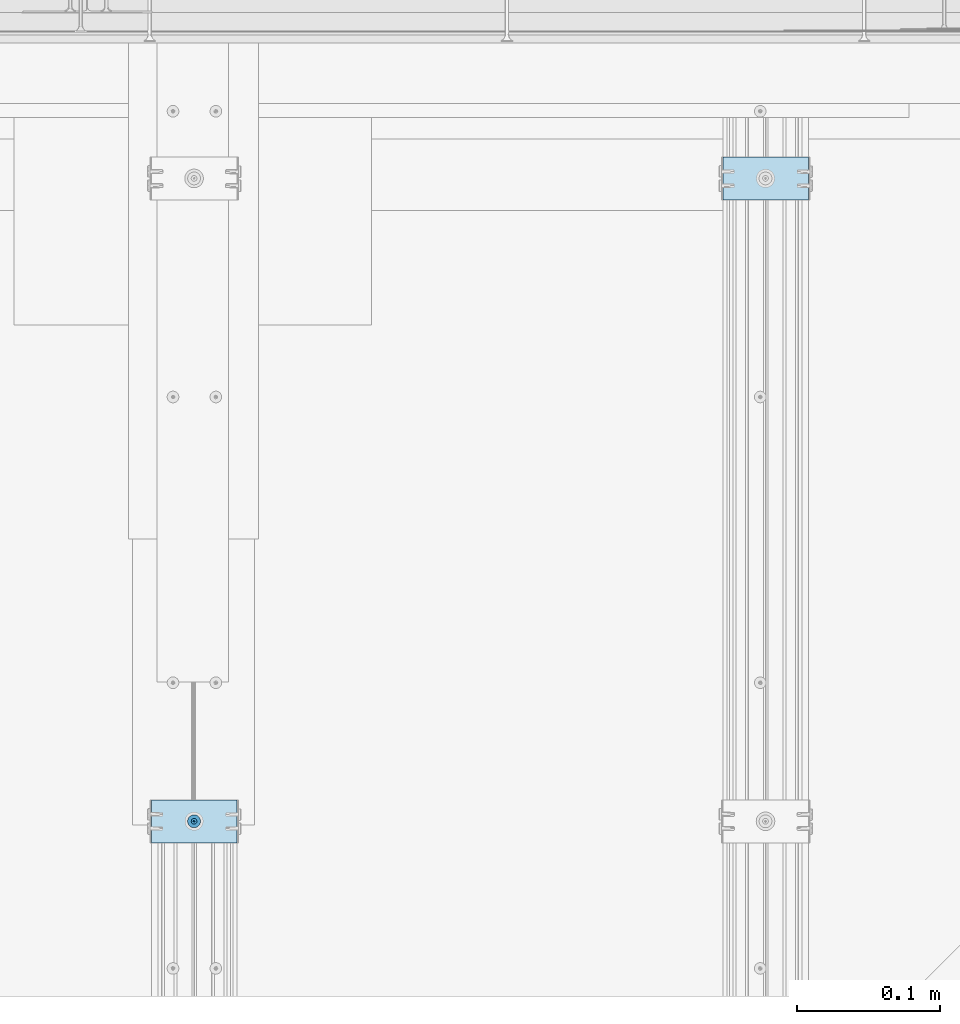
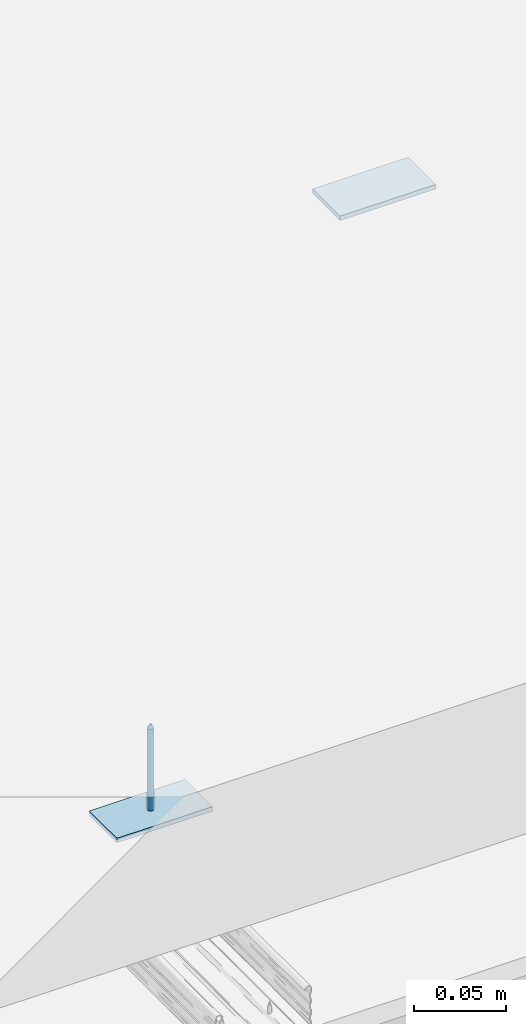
# One storey, part 10 of 62: 3 slabs.
"""IFC2X3 building model written with IfcOpenShell, lengths in millimetres."""

from ifc_helpers import new_model, entity, si_unit, converted_unit, direction, frame, origin, origin_with_axes, place, context, project, spatial, faceted_brep, element, save


model = new_model("IFC2X3")

# Units and contexts
model_context = context("Model", 3, precision=1e-05, world=origin(), true_north=direction((0.0, 1.0, 0.0)))
ifc_project = project(units=[si_unit("LENGTHUNIT", "METRE", prefix="MILLI"), si_unit("AREAUNIT", "SQUARE_METRE"), si_unit("VOLUMEUNIT", "CUBIC_METRE"), converted_unit("PLANEANGLEUNIT", "DEGREE", entity("IfcPlaneAngleMeasure", 0.01745), si_unit("PLANEANGLEUNIT", "RADIAN"), dimensions=[0, 0, 0, 0, 0, 0, 0]), si_unit("SOLIDANGLEUNIT", "STERADIAN"), si_unit("MASSUNIT", "GRAM"), si_unit("TIMEUNIT", "SECOND"), si_unit("THERMODYNAMICTEMPERATUREUNIT", "DEGREE_CELSIUS"), si_unit("LUMINOUSINTENSITYUNIT", "LUMEN")], contexts=[model_context])

# Site, building, storey
site_placement = place(None, origin_with_axes())
site = spatial("IfcSite", under=ifc_project, at=site_placement, Name="Default Site", CompositionType="ELEMENT")
building_placement = place(site_placement, origin_with_axes())
building = spatial("IfcBuilding", under=site, at=building_placement, Name="Default Building", CompositionType="ELEMENT")
storey_placement = place(building_placement, origin_with_axes())
storey = spatial("IfcBuildingStorey", under=building, at=storey_placement, Name="Default Building Storey", CompositionType="ELEMENT", Elevation=0.0)

# Slabs
slab_1_placement = place(storey_placement, frame((2733.040618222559, 1827.603855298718, 1388.424461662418), z_axis=(0.0, -1.0, -6.86006806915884e-13), x_axis=(1.0, 0.0, 0.0)))
element("IfcSlab", 1, at=slab_1_placement, inside=storey, Name="Taśma uszczelniająca piankowa RIGIPS szer.30mm", context=model_context, shape_type="Brep", body=[
    faceted_brep([(59.99999999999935, 0.0, 4.511946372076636e-12), (0.0, 0.0, 0.0), (1.082867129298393e-12, -2.237925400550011e-11, -30.00000000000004), (60.00000000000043, -2.237925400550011e-11, -29.99999999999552), (0.0, 3.00000000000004, 0.0), (1.082867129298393e-12, 2.999999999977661, -30.00000000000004), (60.00000000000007, 3.00000000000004, 0.0), (60.00000000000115, 2.999999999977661, -30.00000000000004)], [[[0, 1, 2, 3]], [[1, 4, 5, 2]], [[4, 6, 7, 5]], [[6, 0, 3, 7]], [[7, 3, 2, 5]], [[0, 6, 4, 1]]]),
])
slab_2_placement = place(storey_placement, frame((5816.179814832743, -41.10778690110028, 1384.974461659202), z_axis=(-6.858158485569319e-13, 6.095830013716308e-13, -1.0), x_axis=(-1.647602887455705e-11, -1.0, -6.095830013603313e-13)))
element("IfcSlab", 2, at=slab_2_placement, inside=storey, Name="Stalowe elementy mocujące", context=model_context, shape_type="Brep", body=[
    faceted_brep([(-1438.31414949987, 3453.283223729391, -0.4642567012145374), (-1435.814149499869, 3453.283223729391, -3.464256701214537), (-1435.78952618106, 3452.97035479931, -3.464256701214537), (-1438.258747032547, 3452.57926863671, -0.4642567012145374), (-1435.71626253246, 3452.665189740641, -3.464256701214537), (-1438.093903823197, 3451.892647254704, -0.4642567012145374), (-1435.596162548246, 3452.375242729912, -3.464256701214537), (-1437.823678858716, 3451.240266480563, -0.4642567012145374), (-1435.432183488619, 3452.107653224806, -3.464256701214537), (-1437.454725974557, 3450.638190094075, -0.4642567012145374), (-1435.228363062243, 3451.869010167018, -3.464256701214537), (-1436.996130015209, 3450.101243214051, -0.4642567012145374), (-1434.989720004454, 3451.665189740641, -3.464256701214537), (-1436.459183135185, 3449.642647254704, -0.4642567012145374), (-1434.722130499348, 3451.501210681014, -3.464256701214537), (-1435.857106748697, 3449.273694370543, -0.4642567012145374), (-1434.432183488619, 3451.381110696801, -3.464256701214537), (-1435.204725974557, 3449.003469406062, -0.4642567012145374), (-1434.12701842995, 3451.307847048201, -3.464256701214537), (-1434.51810459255, 3448.838626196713, -0.4642567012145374), (-1433.814149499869, 3451.283223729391, -3.464256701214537), (-1433.814149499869, 3448.783223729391, -0.4642567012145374), (-1433.501280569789, 3451.307847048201, -3.464256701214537), (-1433.110194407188, 3448.838626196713, -0.4642567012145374), (-1433.19611551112, 3451.381110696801, -3.464256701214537), (-1432.423573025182, 3449.003469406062, -0.4642567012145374), (-1432.906168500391, 3451.501210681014, -3.464256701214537), (-1431.771192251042, 3449.273694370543, -0.4642567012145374), (-1432.638578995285, 3451.665189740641, -3.464256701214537), (-1431.169115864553, 3449.642647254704, -0.4642567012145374), (-1432.399935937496, 3451.869010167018, -3.464256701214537), (-1430.63216898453, 3450.101243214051, -0.4642567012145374), (-1432.196115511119, 3452.107653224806, -3.464256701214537), (-1430.173573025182, 3450.638190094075, -0.4642567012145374), (-1432.032136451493, 3452.375242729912, -3.464256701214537), (-1429.804620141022, 3451.240266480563, -0.4642567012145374), (-1431.912036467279, 3452.665189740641, -3.464256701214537), (-1429.534395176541, 3451.892647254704, -0.4642567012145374), (-1431.838772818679, 3453.596092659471, -3.464256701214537), (-1429.369551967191, 3453.987178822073, -0.4642567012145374), (-1429.314149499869, 3453.283223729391, -0.4642567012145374), (-1431.81414949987, 3453.283223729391, -3.464256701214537), (-1429.369551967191, 3452.57926863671, -0.4642567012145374), (-1431.838772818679, 3452.97035479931, -3.464256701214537), (-1431.912036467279, 3453.901257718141, -3.464256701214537), (-1429.534395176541, 3454.673800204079, -0.4642567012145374), (-1432.032136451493, 3454.19120472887, -3.464256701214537), (-1429.804620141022, 3455.326180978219, -0.4642567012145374), (-1432.196115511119, 3454.458794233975, -3.464256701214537), (-1430.173573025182, 3455.928257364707, -0.4642567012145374), (-1432.399935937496, 3454.697437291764, -3.464256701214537), (-1430.63216898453, 3456.465204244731, -0.4642567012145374), (-1432.638578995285, 3454.901257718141, -3.464256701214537), (-1431.169115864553, 3456.923800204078, -0.4642567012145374), (-1432.906168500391, 3455.065236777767, -3.464256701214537), (-1431.771192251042, 3457.292753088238, -0.4642567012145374), (-1433.19611551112, 3455.185336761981, -3.464256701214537), (-1432.423573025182, 3457.562978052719, -0.4642567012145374), (-1433.501280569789, 3455.258600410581, -3.464256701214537), (-1433.110194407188, 3457.727821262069, -0.4642567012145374), (-1433.814149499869, 3455.283223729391, -3.464256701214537), (-1433.814149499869, 3457.783223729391, -0.4642567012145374), (-1434.34306778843, 3457.752031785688, -0.4642567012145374), (-1434.12701842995, 3455.258600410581, -3.464256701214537), (-1434.432183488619, 3455.185336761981, -3.464256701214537), (-1434.864653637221, 3457.658888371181, -0.4642567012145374), (-1435.371676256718, 3457.505084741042, -0.4642567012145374), (-1434.722130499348, 3455.065236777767, -3.464256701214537), (-1435.857106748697, 3457.292753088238, -0.4642567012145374), (-1434.989720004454, 3454.901257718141, -3.464256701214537), (-1435.228363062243, 3454.697437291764, -3.464256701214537), (-1436.314215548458, 3457.024836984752, -0.4642567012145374), (-1436.736665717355, 3456.705050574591, -0.4642567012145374), (-1437.11860079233, 3456.337827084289, -0.4642567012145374), (-1437.454725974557, 3455.928257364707, -0.4642567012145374), (-1435.432183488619, 3454.458794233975, -3.464256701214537), (-1435.596162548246, 3454.19120472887, -3.464256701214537), (-1437.823678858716, 3455.326180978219, -0.4642567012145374), (-1435.71626253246, 3453.901257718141, -3.464256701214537), (-1438.093903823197, 3454.673800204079, -0.4642567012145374), (-1435.78952618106, 3453.596092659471, -3.464256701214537), (-1438.258747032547, 3453.987178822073, -0.4642567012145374), (-1434.205235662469, 3455.752444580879, 0.2007375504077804), (-1433.814149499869, 3455.78322372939, 0.2007375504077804), (-1434.586691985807, 3455.660865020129, 0.2007375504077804), (-1434.949125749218, 3455.510740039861, 0.2007375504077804), (-1435.283612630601, 3455.305766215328, 0.2007375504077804), (-1435.581916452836, 3455.050990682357, 0.2007375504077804), (-1435.836691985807, 3454.752686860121, 0.2007375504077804), (-1436.04166581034, 3454.41819997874, 0.2007375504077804), (-1436.191790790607, 3454.055766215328, 0.2007375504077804), (-1436.283370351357, 3453.674309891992, 0.2007375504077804), (-1436.314149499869, 3453.283223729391, 0.2007375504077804), (-1436.283370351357, 3452.892137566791, 0.2007375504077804), (-1436.191790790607, 3452.510681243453, 0.2007375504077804), (-1436.04166581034, 3452.148247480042, 0.2007375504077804), (-1435.836691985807, 3451.81376059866, 0.200737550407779), (-1435.581916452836, 3451.515456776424, 0.2007375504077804), (-1435.283612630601, 3451.260681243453, 0.2007375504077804), (-1434.949125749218, 3451.05570741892, 0.2007375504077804), (-1434.586691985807, 3450.905582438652, 0.2007375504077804), (-1433.423063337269, 3450.814002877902, 0.2007375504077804), (-1433.814149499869, 3450.783223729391, 0.2007375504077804), (-1434.205235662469, 3450.814002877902, 0.2007375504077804), (-1433.041607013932, 3450.905582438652, 0.2007375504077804), (-1432.67917325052, 3451.05570741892, 0.2007375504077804), (-1432.344686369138, 3451.260681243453, 0.2007375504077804), (-1432.046382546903, 3451.515456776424, 0.2007375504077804), (-1431.791607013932, 3451.81376059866, 0.2007375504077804), (-1431.586633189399, 3452.148247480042, 0.2007375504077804), (-1431.436508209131, 3452.510681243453, 0.2007375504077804), (-1431.344928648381, 3452.892137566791, 0.2007375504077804), (-1431.314149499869, 3453.283223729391, 0.2007375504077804), (-1431.344928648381, 3453.674309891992, 0.2007375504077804), (-1431.436508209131, 3454.055766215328, 0.2007375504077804), (-1431.586633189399, 3454.41819997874, 0.2007375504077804), (-1431.791607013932, 3454.752686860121, 0.2007375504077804), (-1432.046382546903, 3455.050990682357, 0.2007375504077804), (-1432.344686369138, 3455.305766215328, 0.2007375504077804), (-1432.67917325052, 3455.510740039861, 0.2007375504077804), (-1433.041607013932, 3455.660865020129, 0.2007375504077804), (-1433.423063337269, 3455.752444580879, 0.2007375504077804), (-1433.814149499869, 3453.283223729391, -63.46425670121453), (-1435.789526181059, 3452.97035479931, -60.46425670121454), (-1435.814149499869, 3453.283223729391, -60.46425670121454), (-1435.716262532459, 3452.665189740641, -60.46425670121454), (-1435.596162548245, 3452.375242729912, -60.46425670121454), (-1435.432183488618, 3452.107653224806, -60.46425670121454), (-1435.228363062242, 3451.869010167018, -60.46425670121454), (-1434.989720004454, 3451.665189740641, -60.46425670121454), (-1434.722130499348, 3451.501210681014, -60.46425670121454), (-1434.432183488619, 3451.381110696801, -60.46425670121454), (-1434.127018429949, 3451.307847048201, -60.46425670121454), (-1433.814149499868, 3451.283223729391, -60.46425670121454), (-1433.501280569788, 3451.307847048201, -60.46425670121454), (-1433.196115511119, 3451.381110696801, -60.46425670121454), (-1432.90616850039, 3451.501210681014, -60.46425670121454), (-1432.638578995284, 3451.665189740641, -60.46425670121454), (-1432.399935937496, 3451.869010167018, -60.46425670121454), (-1432.196115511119, 3452.107653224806, -60.46425670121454), (-1432.032136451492, 3452.375242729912, -60.46425670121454), (-1431.912036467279, 3452.665189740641, -60.46425670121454), (-1431.838772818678, 3452.97035479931, -60.46425670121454), (-1431.814149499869, 3453.283223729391, -60.46425670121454), (-1431.838772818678, 3453.596092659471, -60.46425670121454), (-1431.912036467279, 3453.901257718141, -60.46425670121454), (-1432.032136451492, 3454.19120472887, -60.46425670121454), (-1432.196115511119, 3454.458794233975, -60.46425670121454), (-1432.399935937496, 3454.697437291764, -60.46425670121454), (-1432.638578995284, 3454.901257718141, -60.46425670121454), (-1432.90616850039, 3455.065236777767, -60.46425670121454), (-1433.196115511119, 3455.185336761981, -60.46425670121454), (-1433.501280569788, 3455.258600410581, -60.46425670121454), (-1433.814149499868, 3455.283223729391, -60.46425670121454), (-1434.127018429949, 3455.258600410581, -60.46425670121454), (-1434.432183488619, 3455.185336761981, -60.46425670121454), (-1434.722130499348, 3455.065236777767, -60.46425670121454), (-1434.989720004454, 3454.901257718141, -60.46425670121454), (-1435.228363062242, 3454.697437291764, -60.46425670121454), (-1435.432183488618, 3454.458794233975, -60.46425670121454), (-1435.596162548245, 3454.19120472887, -60.46425670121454), (-1435.716262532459, 3453.901257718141, -60.46425670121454), (-1435.789526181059, 3453.596092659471, -60.46425670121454), (-1435.814149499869, 3453.783223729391, 0.04999999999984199), (-1436.04166581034, 3454.41819997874, 0.04999999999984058), (-1436.191790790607, 3454.055766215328, 0.04999999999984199), (-1435.814149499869, 3452.783223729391, 0.04999999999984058), (-1434.314149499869, 3453.783223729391, 0.04999999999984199), (-1434.314149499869, 3455.28322372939, 0.04999999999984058), (-1433.314149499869, 3455.28322372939, 0.04999999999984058), (-1433.314149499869, 3453.783223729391, 0.04999999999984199), (-1431.814149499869, 3453.783223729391, 0.04999999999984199), (-1431.814149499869, 3452.783223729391, 0.04999999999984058), (-1433.314149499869, 3452.783223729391, 0.04999999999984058), (-1433.314149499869, 3451.283223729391, 0.04999999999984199), (-1434.314149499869, 3451.283223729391, 0.04999999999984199), (-1434.314149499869, 3452.783223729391, 0.04999999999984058), (-1436.283370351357, 3453.674309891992, 0.04999999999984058), (-1436.314149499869, 3453.283223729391, 0.04999999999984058), (-1436.283370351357, 3452.892137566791, 0.04999999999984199), (-1436.191790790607, 3452.510681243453, 0.04999999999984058), (-1436.04166581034, 3452.148247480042, 0.04999999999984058), (-1435.836691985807, 3451.81376059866, 0.04999999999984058), (-1435.581916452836, 3451.515456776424, 0.04999999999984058), (-1435.283612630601, 3451.260681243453, 0.04999999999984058), (-1434.949125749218, 3451.05570741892, 0.04999999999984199), (-1434.586691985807, 3450.905582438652, 0.04999999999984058), (-1434.205235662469, 3450.814002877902, 0.04999999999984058), (-1433.814149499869, 3450.783223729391, 0.04999999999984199), (-1433.423063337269, 3450.814002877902, 0.04999999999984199), (-1433.041607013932, 3450.905582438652, 0.04999999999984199), (-1432.67917325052, 3451.05570741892, 0.04999999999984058), (-1432.344686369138, 3451.260681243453, 0.04999999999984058), (-1432.046382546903, 3451.515456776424, 0.04999999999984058), (-1431.791607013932, 3451.81376059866, 0.04999999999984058), (-1431.586633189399, 3452.148247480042, 0.04999999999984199), (-1431.436508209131, 3452.510681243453, 0.04999999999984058), (-1431.344928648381, 3452.892137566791, 0.04999999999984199), (-1431.314149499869, 3453.283223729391, 0.04999999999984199), (-1431.344928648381, 3453.674309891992, 0.04999999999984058), (-1431.436508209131, 3454.055766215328, 0.04999999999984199), (-1431.586633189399, 3454.41819997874, 0.04999999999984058), (-1431.791607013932, 3454.752686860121, 0.04999999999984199), (-1432.046382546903, 3455.050990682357, 0.04999999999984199), (-1432.344686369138, 3455.305766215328, 0.04999999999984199), (-1432.67917325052, 3455.510740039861, 0.04999999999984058), (-1433.041607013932, 3455.660865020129, 0.04999999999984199), (-1433.423063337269, 3455.752444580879, 0.04999999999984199), (-1433.814149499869, 3455.78322372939, 0.04999999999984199), (-1434.205235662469, 3455.752444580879, 0.04999999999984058), (-1434.586691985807, 3455.660865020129, 0.04999999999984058), (-1434.949125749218, 3455.510740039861, 0.04999999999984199), (-1435.283612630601, 3455.305766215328, 0.04999999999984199), (-1435.581916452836, 3455.050990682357, 0.04999999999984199), (-1435.836691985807, 3454.752686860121, 0.04999999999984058), (-1434.314149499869, 3452.783223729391, -1.79926244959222), (-1434.314149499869, 3451.283223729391, -1.799262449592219), (-1433.314149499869, 3451.283223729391, -1.799262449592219), (-1433.314149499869, 3452.783223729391, -1.79926244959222), (-1431.81414949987, 3452.783223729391, -1.79926244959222), (-1431.81414949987, 3453.783223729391, -1.799262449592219), (-1433.314149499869, 3453.783223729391, -1.799262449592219), (-1433.314149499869, 3455.28322372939, -1.79926244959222), (-1434.314149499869, 3455.28322372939, -1.79926244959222), (-1434.314149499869, 3453.783223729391, -1.799262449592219), (-1435.814149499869, 3453.783223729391, -1.799262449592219), (-1435.814149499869, 3452.783223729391, -1.79926244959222)], [[[0, 1, 2, 3]], [[4, 5, 3, 2]], [[6, 7, 5, 4]], [[7, 6, 8, 9]], [[10, 11, 9, 8]], [[11, 10, 12, 13]], [[14, 15, 13, 12]], [[16, 17, 15, 14]], [[17, 16, 18, 19]], [[20, 21, 19, 18]], [[21, 20, 22, 23]], [[24, 25, 23, 22]], [[26, 27, 25, 24]], [[27, 26, 28, 29]], [[30, 31, 29, 28]], [[31, 30, 32, 33]], [[34, 35, 33, 32]], [[36, 37, 35, 34]], [[38, 39, 40, 41]], [[41, 40, 42, 43]], [[37, 36, 43, 42]], [[44, 45, 39, 38]], [[46, 47, 45, 44]], [[47, 46, 48, 49]], [[50, 51, 49, 48]], [[51, 50, 52, 53]], [[54, 55, 53, 52]], [[56, 57, 55, 54]], [[57, 56, 58, 59]], [[60, 61, 59, 58]], [[62, 61, 63]], [[61, 60, 63]], [[63, 64, 62]], [[64, 65, 62]], [[66, 65, 64]], [[64, 67, 66]], [[67, 68, 66]], [[69, 70, 71]], [[70, 72, 71]], [[71, 68, 69]], [[68, 67, 69]], [[70, 73, 72]], [[74, 73, 75]], [[73, 70, 75]], [[76, 77, 74, 75]], [[78, 79, 77, 76]], [[79, 78, 80, 81]], [[1, 0, 81, 80]], [[82, 83, 62]], [[83, 61, 62]], [[62, 65, 82]], [[65, 84, 82]], [[66, 68, 84]], [[68, 85, 84]], [[84, 65, 66]], [[86, 85, 71]], [[85, 68, 71]], [[72, 73, 87]], [[87, 86, 72]], [[86, 71, 72]], [[88, 87, 74]], [[87, 73, 74]], [[77, 89, 88, 74]], [[79, 90, 89, 77]], [[90, 79, 81, 91]], [[0, 92, 91, 81]], [[92, 0, 3, 93]], [[5, 94, 93, 3]], [[7, 95, 94, 5]], [[95, 7, 9, 96]], [[11, 97, 96, 9]], [[97, 11, 13, 98]], [[15, 99, 98, 13]], [[17, 100, 99, 15]], [[23, 101, 102, 21]], [[21, 102, 103, 19]], [[100, 17, 19, 103]], [[25, 104, 101, 23]], [[27, 105, 104, 25]], [[105, 27, 29, 106]], [[31, 107, 106, 29]], [[107, 31, 33, 108]], [[35, 109, 108, 33]], [[37, 110, 109, 35]], [[110, 37, 42, 111]], [[40, 112, 111, 42]], [[112, 40, 39, 113]], [[45, 114, 113, 39]], [[47, 115, 114, 45]], [[115, 47, 49, 116]], [[51, 117, 116, 49]], [[117, 51, 53, 118]], [[55, 119, 118, 53]], [[57, 120, 119, 55]], [[120, 57, 59, 121]], [[61, 83, 121, 59]], [[122, 123, 124]], [[122, 125, 123]], [[122, 126, 125]], [[127, 126, 122]], [[122, 128, 127]], [[129, 128, 122]], [[122, 130, 129]], [[122, 131, 130]], [[132, 131, 122]], [[122, 133, 132]], [[134, 133, 122]], [[122, 135, 134]], [[122, 136, 135]], [[137, 136, 122]], [[122, 138, 137]], [[139, 138, 122]], [[122, 140, 139]], [[122, 141, 140]], [[142, 141, 122]], [[122, 143, 142]], [[144, 143, 122]], [[122, 145, 144]], [[122, 146, 145]], [[147, 146, 122]], [[122, 148, 147]], [[149, 148, 122]], [[122, 150, 149]], [[122, 151, 150]], [[152, 151, 122]], [[122, 153, 152]], [[154, 153, 122]], [[122, 155, 154]], [[122, 156, 155]], [[157, 156, 122]], [[122, 158, 157]], [[159, 158, 122]], [[122, 160, 159]], [[122, 161, 160]], [[162, 161, 122]], [[124, 162, 122]], [[1, 124, 123, 2]], [[125, 4, 2, 123]], [[126, 6, 4, 125]], [[6, 126, 127, 8]], [[128, 10, 8, 127]], [[10, 128, 129, 12]], [[130, 14, 12, 129]], [[131, 16, 14, 130]], [[16, 131, 132, 18]], [[133, 20, 18, 132]], [[20, 133, 134, 22]], [[135, 24, 22, 134]], [[136, 26, 24, 135]], [[26, 136, 137, 28]], [[138, 30, 28, 137]], [[30, 138, 139, 32]], [[140, 34, 32, 139]], [[141, 36, 34, 140]], [[144, 38, 41, 143]], [[143, 41, 43, 142]], [[36, 141, 142, 43]], [[145, 44, 38, 144]], [[146, 46, 44, 145]], [[46, 146, 147, 48]], [[148, 50, 48, 147]], [[50, 148, 149, 52]], [[150, 54, 52, 149]], [[151, 56, 54, 150]], [[56, 151, 152, 58]], [[153, 60, 58, 152]], [[60, 153, 154, 63]], [[155, 64, 63, 154]], [[156, 67, 64, 155]], [[67, 156, 157, 69]], [[158, 70, 69, 157]], [[70, 158, 159, 75]], [[160, 76, 75, 159]], [[161, 78, 76, 160]], [[78, 161, 162, 80]], [[124, 1, 80, 162]], [[163, 164, 165, 166]], [[163, 167, 168, 169, 170, 171, 172, 173, 174, 175, 176, 166, 165, 177, 178, 179, 180, 181, 182, 183, 184, 185, 186, 187, 188, 189, 190, 191, 192, 193, 194, 195, 196, 197, 198, 199, 200, 201, 202, 203, 204, 205, 206, 207, 208, 209, 210, 211, 212, 213, 214, 164]], [[199, 198, 112, 113]], [[113, 114, 200, 199]], [[114, 115, 201, 200]], [[202, 201, 115, 116]], [[116, 117, 203, 202]], [[204, 203, 117, 118]], [[118, 119, 205, 204]], [[119, 120, 206, 205]], [[207, 206, 120, 121]], [[121, 83, 208, 207]], [[209, 208, 83, 82]], [[82, 84, 210, 209]], [[84, 85, 211, 210]], [[212, 211, 85, 86]], [[86, 87, 213, 212]], [[214, 213, 87, 88]], [[88, 89, 164, 214]], [[89, 90, 165, 164]], [[92, 93, 179, 178]], [[91, 92, 178, 177]], [[177, 165, 90, 91]], [[93, 94, 180, 179]], [[94, 95, 181, 180]], [[182, 181, 95, 96]], [[96, 97, 183, 182]], [[184, 183, 97, 98]], [[98, 99, 185, 184]], [[99, 100, 186, 185]], [[187, 186, 100, 103]], [[103, 102, 188, 187]], [[189, 188, 102, 101]], [[101, 104, 190, 189]], [[104, 105, 191, 190]], [[192, 191, 105, 106]], [[106, 107, 193, 192]], [[194, 193, 107, 108]], [[108, 109, 195, 194]], [[109, 110, 196, 195]], [[197, 196, 110, 111]], [[111, 112, 198, 197]], [[215, 216, 217, 218, 219, 220, 221, 222, 223, 224, 225, 226]], [[216, 175, 174, 217]], [[215, 176, 175, 216]], [[226, 166, 176, 215]], [[225, 163, 166, 226]], [[224, 167, 163, 225]], [[223, 168, 167, 224]], [[222, 169, 168, 223]], [[221, 170, 169, 222]], [[220, 171, 170, 221]], [[219, 172, 171, 220]], [[218, 173, 172, 219]], [[217, 174, 173, 218]]]),
])
slab_3_placement = place(storey_placement, frame((2333.040618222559, 1377.603855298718, 1388.424461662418), z_axis=(0.0, -1.0, -6.86006806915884e-13), x_axis=(1.0, 0.0, 0.0)))
element("IfcSlab", 3, at=slab_3_placement, inside=storey, Name="Taśma uszczelniająca piankowa RIGIPS szer.30mm", context=model_context, shape_type="Brep", body=[
    faceted_brep([(59.99999999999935, 0.0, 4.511946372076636e-12), (0.0, 0.0, 0.0), (1.082867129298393e-12, -2.237925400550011e-11, -30.00000000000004), (60.00000000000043, -2.237925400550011e-11, -29.99999999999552), (0.0, 3.00000000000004, 0.0), (1.082867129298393e-12, 2.999999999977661, -30.00000000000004), (60.00000000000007, 3.00000000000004, 0.0), (60.00000000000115, 2.999999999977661, -30.00000000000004)], [[[0, 1, 2, 3]], [[1, 4, 5, 2]], [[4, 6, 7, 5]], [[6, 0, 3, 7]], [[7, 3, 2, 5]], [[0, 6, 4, 1]]]),
])

save(model, "model.ifc")
